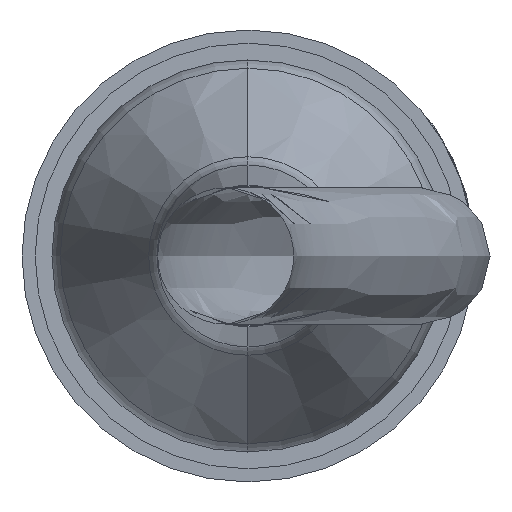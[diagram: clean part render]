
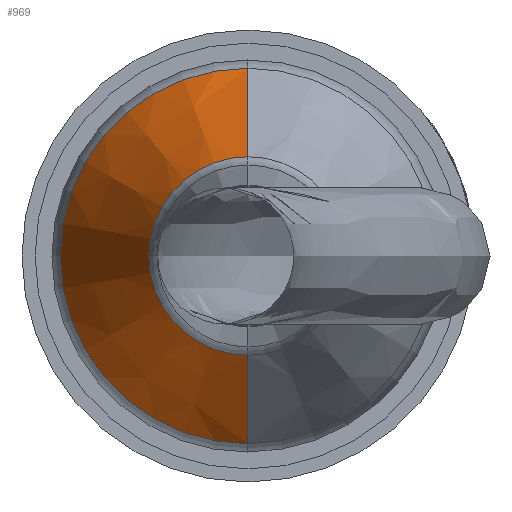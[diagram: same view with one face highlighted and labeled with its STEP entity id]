
A CAD part, left-side view. The second image highlights one B-rep face of the part: STEP entity #969.
In plain terms, the highlighted conical face has half-angle 24.702 degrees and reference radius 21.6 mm.
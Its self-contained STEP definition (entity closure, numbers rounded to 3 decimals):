
#911 = VERTEX_POINT ( 'NONE', #12153 ) ;
#913 = EDGE_CURVE ( 'NONE', #914, #911, #12152, .T. ) ;
#914 = VERTEX_POINT ( 'NONE', #12147 ) ;
#969 = ADVANCED_FACE ( 'NONE', ( #12229 ), #12227, .T. ) ;
#970 = EDGE_LOOP ( 'NONE', ( #971, #975, #977, #978 ) ) ;
#971 = ORIENTED_EDGE ( 'NONE', *, *, #972, .T. ) ;
#972 = EDGE_CURVE ( 'NONE', #973, #974, #12289, .T. ) ;
#973 = VERTEX_POINT ( 'NONE', #12284 ) ;
#974 = VERTEX_POINT ( 'NONE', #12283 ) ;
#975 = ORIENTED_EDGE ( 'NONE', *, *, #976, .T. ) ;
#976 = EDGE_CURVE ( 'NONE', #974, #914, #12282, .T. ) ;
#977 = ORIENTED_EDGE ( 'NONE', *, *, #913, .T. ) ;
#978 = ORIENTED_EDGE ( 'NONE', *, *, #979, .F. ) ;
#979 = EDGE_CURVE ( 'NONE', #973, #911, #12278, .T. ) ;
#12147 = CARTESIAN_POINT ( 'NONE',  ( -349.73, 0., 20.685 ) ) ;
#12148 = DIRECTION ( 'NONE',  ( 0., 0., 1. ) ) ;
#12149 = DIRECTION ( 'NONE',  ( -1., 0., 0. ) ) ;
#12150 = CARTESIAN_POINT ( 'NONE',  ( -349.73, 0., 0. ) ) ;
#12151 = AXIS2_PLACEMENT_3D ( 'NONE', #12150, #12149, #12148 ) ;
#12152 = CIRCLE ( 'NONE', #12151, 20.685 ) ;
#12153 = CARTESIAN_POINT ( 'NONE',  ( -349.73, 0., -20.685 ) ) ;
#12225 = CARTESIAN_POINT ( 'NONE',  ( -347.741, 0., 0. ) ) ;
#12226 = AXIS2_PLACEMENT_3D ( 'NONE', #12225, #12228, #12290 ) ;
#12227 = CONICAL_SURFACE ( 'NONE', #12226, 21.6, 0.431 ) ;
#12228 = DIRECTION ( 'NONE',  ( 1., 0., 0. ) ) ;
#12229 = FACE_OUTER_BOUND ( 'NONE', #970, .T. ) ;
#12275 = DIRECTION ( 'NONE',  ( 0.908, 0., -0.418 ) ) ;
#12276 = VECTOR ( 'NONE', #12275, 1000. ) ;
#12277 = CARTESIAN_POINT ( 'NONE',  ( -347.741, 0., -21.6 ) ) ;
#12278 = LINE ( 'NONE', #12277, #12276 ) ;
#12279 = DIRECTION ( 'NONE',  ( 0.908, 0., 0.418 ) ) ;
#12280 = VECTOR ( 'NONE', #12279, 1000. ) ;
#12281 = CARTESIAN_POINT ( 'NONE',  ( -347.741, 0., 21.6 ) ) ;
#12282 = LINE ( 'NONE', #12281, #12280 ) ;
#12283 = CARTESIAN_POINT ( 'NONE',  ( -370.921, 0., 10.937 ) ) ;
#12284 = CARTESIAN_POINT ( 'NONE',  ( -370.921, 0., -10.937 ) ) ;
#12285 = DIRECTION ( 'NONE',  ( 0., 0., -1. ) ) ;
#12286 = DIRECTION ( 'NONE',  ( 1., 0., 0. ) ) ;
#12287 = CARTESIAN_POINT ( 'NONE',  ( -370.921, 0., 0. ) ) ;
#12288 = AXIS2_PLACEMENT_3D ( 'NONE', #12287, #12286, #12285 ) ;
#12289 = CIRCLE ( 'NONE', #12288, 10.937 ) ;
#12290 = DIRECTION ( 'NONE',  ( 0., 0., -1. ) ) ;
